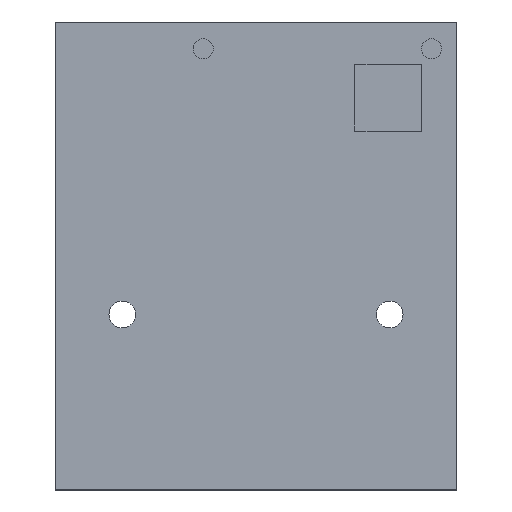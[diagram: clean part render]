
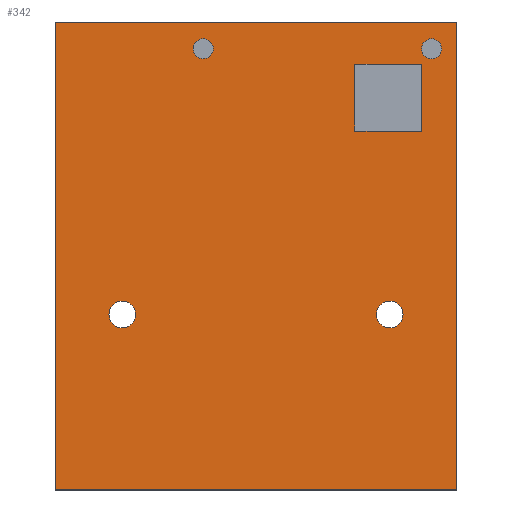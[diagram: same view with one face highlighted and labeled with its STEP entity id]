
A CAD part, top view. The second image highlights one B-rep face of the part: STEP entity #342.
In plain terms, the highlighted planar face has unit normal (0, 0, 1).
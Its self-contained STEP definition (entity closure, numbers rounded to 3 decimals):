
#19=FACE_BOUND('',#88,.T.);
#20=FACE_BOUND('',#89,.T.);
#21=FACE_BOUND('',#90,.T.);
#22=FACE_BOUND('',#91,.T.);
#23=FACE_BOUND('',#92,.T.);
#24=CIRCLE('',#363,1.5);
#26=CIRCLE('',#367,1.5);
#29=CIRCLE('',#372,2.);
#32=CIRCLE('',#377,2.);
#62=FACE_OUTER_BOUND('',#87,.T.);
#87=EDGE_LOOP('',(#295,#296,#297,#298));
#88=EDGE_LOOP('',(#299,#300,#301,#302));
#89=EDGE_LOOP('',(#303));
#90=EDGE_LOOP('',(#304));
#91=EDGE_LOOP('',(#305));
#92=EDGE_LOOP('',(#306));
#93=LINE('',#492,#123);
#97=LINE('',#500,#127);
#100=LINE('',#506,#130);
#103=LINE('',#511,#133);
#111=LINE('',#557,#141);
#115=LINE('',#565,#145);
#118=LINE('',#571,#148);
#121=LINE('',#576,#151);
#123=VECTOR('',#394,10.);
#127=VECTOR('',#400,10.);
#130=VECTOR('',#405,10.);
#133=VECTOR('',#410,10.);
#141=VECTOR('',#466,10.);
#145=VECTOR('',#472,10.);
#148=VECTOR('',#477,10.);
#151=VECTOR('',#482,10.);
#153=VERTEX_POINT('',#490);
#154=VERTEX_POINT('',#491);
#157=VERTEX_POINT('',#499);
#159=VERTEX_POINT('',#505);
#161=VERTEX_POINT('',#515);
#163=VERTEX_POINT('',#522);
#166=VERTEX_POINT('',#531);
#169=VERTEX_POINT('',#540);
#173=VERTEX_POINT('',#555);
#174=VERTEX_POINT('',#556);
#177=VERTEX_POINT('',#564);
#179=VERTEX_POINT('',#570);
#181=EDGE_CURVE('',#153,#154,#93,.T.);
#185=EDGE_CURVE('',#157,#153,#97,.T.);
#188=EDGE_CURVE('',#159,#157,#100,.T.);
#191=EDGE_CURVE('',#154,#159,#103,.T.);
#193=EDGE_CURVE('',#161,#161,#24,.T.);
#196=EDGE_CURVE('',#163,#163,#26,.T.);
#201=EDGE_CURVE('',#166,#166,#29,.T.);
#205=EDGE_CURVE('',#169,#169,#32,.T.);
#211=EDGE_CURVE('',#173,#174,#111,.T.);
#215=EDGE_CURVE('',#174,#177,#115,.T.);
#218=EDGE_CURVE('',#177,#179,#118,.T.);
#221=EDGE_CURVE('',#179,#173,#121,.T.);
#295=ORIENTED_EDGE('',*,*,#221,.T.);
#296=ORIENTED_EDGE('',*,*,#211,.T.);
#297=ORIENTED_EDGE('',*,*,#215,.T.);
#298=ORIENTED_EDGE('',*,*,#218,.T.);
#299=ORIENTED_EDGE('',*,*,#181,.T.);
#300=ORIENTED_EDGE('',*,*,#191,.T.);
#301=ORIENTED_EDGE('',*,*,#188,.T.);
#302=ORIENTED_EDGE('',*,*,#185,.T.);
#303=ORIENTED_EDGE('',*,*,#193,.T.);
#304=ORIENTED_EDGE('',*,*,#196,.T.);
#305=ORIENTED_EDGE('',*,*,#201,.F.);
#306=ORIENTED_EDGE('',*,*,#205,.F.);
#321=PLANE('',#389);
#342=ADVANCED_FACE('',(#62,#19,#20,#21,#22,#23),#321,.F.);
#363=AXIS2_PLACEMENT_3D('',#516,#416,#417);
#367=AXIS2_PLACEMENT_3D('',#523,#425,#426);
#372=AXIS2_PLACEMENT_3D('',#533,#437,#438);
#377=AXIS2_PLACEMENT_3D('',#542,#448,#449);
#389=AXIS2_PLACEMENT_3D('',#579,#486,#487);
#394=DIRECTION('',(-1.,0.,0.));
#400=DIRECTION('',(0.,-1.,0.));
#405=DIRECTION('',(1.,0.,0.));
#410=DIRECTION('',(0.,1.,0.));
#416=DIRECTION('center_axis',(0.,0.,-1.));
#417=DIRECTION('ref_axis',(1.,0.,0.));
#425=DIRECTION('center_axis',(0.,0.,-1.));
#426=DIRECTION('ref_axis',(1.,0.,0.));
#437=DIRECTION('center_axis',(0.,0.,1.));
#438=DIRECTION('ref_axis',(1.,0.,0.));
#448=DIRECTION('center_axis',(0.,0.,1.));
#449=DIRECTION('ref_axis',(1.,0.,0.));
#466=DIRECTION('',(0.,-1.,0.));
#472=DIRECTION('',(1.,0.,0.));
#477=DIRECTION('',(0.,1.,0.));
#482=DIRECTION('',(-1.,0.,0.));
#486=DIRECTION('center_axis',(0.,0.,-1.));
#487=DIRECTION('ref_axis',(1.,0.,0.));
#490=CARTESIAN_POINT('',(61.781,31.683,-61.672));
#491=CARTESIAN_POINT('',(51.781,31.683,-61.672));
#492=CARTESIAN_POINT('',(49.387,31.683,-61.672));
#499=CARTESIAN_POINT('',(61.781,41.683,-61.672));
#500=CARTESIAN_POINT('',(61.781,27.342,-61.672));
#505=CARTESIAN_POINT('',(51.781,41.683,-61.672));
#506=CARTESIAN_POINT('',(44.387,41.683,-61.672));
#511=CARTESIAN_POINT('',(51.781,22.342,-61.672));
#515=CARTESIAN_POINT('',(61.758,44.,-61.672));
#516=CARTESIAN_POINT('Origin',(63.258,44.,-61.672));
#522=CARTESIAN_POINT('',(27.595,44.,-61.672));
#523=CARTESIAN_POINT('Origin',(29.095,44.,-61.672));
#531=CARTESIAN_POINT('',(14.993,4.25,-61.672));
#533=CARTESIAN_POINT('Origin',(16.993,4.25,-61.672));
#540=CARTESIAN_POINT('',(54.993,4.25,-61.672));
#542=CARTESIAN_POINT('Origin',(56.993,4.25,-61.672));
#555=CARTESIAN_POINT('',(6.993,48.,-61.672));
#556=CARTESIAN_POINT('',(6.993,-22.,-61.672));
#557=CARTESIAN_POINT('',(6.993,48.,-61.672));
#564=CARTESIAN_POINT('',(66.993,-22.,-61.672));
#565=CARTESIAN_POINT('',(6.993,-22.,-61.672));
#570=CARTESIAN_POINT('',(66.993,48.,-61.672));
#571=CARTESIAN_POINT('',(66.993,-22.,-61.672));
#576=CARTESIAN_POINT('',(66.993,48.,-61.672));
#579=CARTESIAN_POINT('Origin',(36.993,13.,-61.672));
